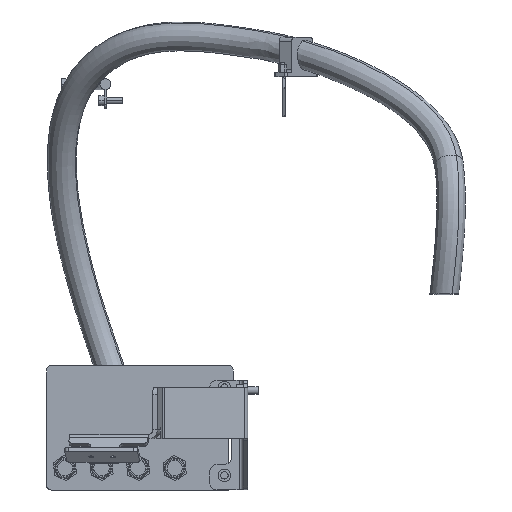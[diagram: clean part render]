
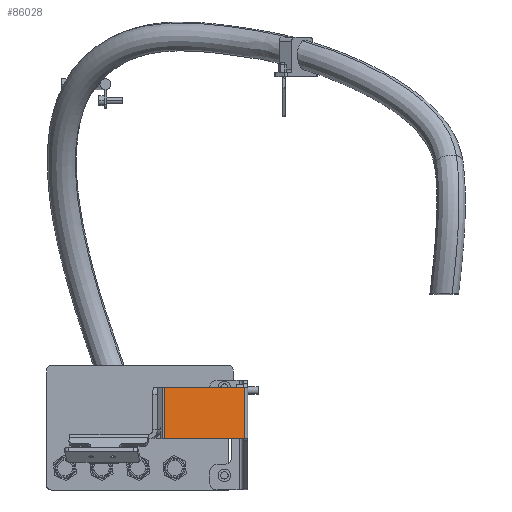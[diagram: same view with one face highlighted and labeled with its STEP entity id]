
A CAD part, left-side view. The second image highlights one B-rep face of the part: STEP entity #86028.
In plain terms, the highlighted planar face has unit normal (-0.766, -0.643, 0).
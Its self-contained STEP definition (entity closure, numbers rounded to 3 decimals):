
#190 = DIRECTION ( 'NONE',  ( 0.643, -0.766, 0. ) ) ;
#559 = EDGE_CURVE ( 'NONE', #59118, #75802, #683, .T. ) ;
#683 = LINE ( 'NONE', #28858, #82409 ) ;
#3476 = CARTESIAN_POINT ( 'NONE',  ( 90.879, 32.442, 1874. ) ) ;
#4618 = CARTESIAN_POINT ( 'NONE',  ( 183.394, -77.813, 1954. ) ) ;
#10465 = CARTESIAN_POINT ( 'NONE',  ( 90.879, 32.442, 1874. ) ) ;
#11299 = EDGE_CURVE ( 'NONE', #34141, #75802, #24495, .T. ) ;
#14583 = ORIENTED_EDGE ( 'NONE', *, *, #22207, .T. ) ;
#17523 = VECTOR ( 'NONE', #87759, 1000. ) ;
#20973 = FACE_OUTER_BOUND ( 'NONE', #63694, .T. ) ;
#22207 = EDGE_CURVE ( 'NONE', #34141, #66009, #49599, .T. ) ;
#24495 = LINE ( 'NONE', #4618, #17523 ) ;
#28858 = CARTESIAN_POINT ( 'NONE',  ( 217.839, -118.863, 1874. ) ) ;
#34141 = VERTEX_POINT ( 'NONE', #40371 ) ;
#40371 = CARTESIAN_POINT ( 'NONE',  ( 183.394, -77.813, 1944. ) ) ;
#40391 = EDGE_CURVE ( 'NONE', #59118, #66009, #81081, .T. ) ;
#43163 = VECTOR ( 'NONE', #67717, 1000. ) ;
#44091 = VECTOR ( 'NONE', #57013, 1000. ) ;
#48238 = PLANE ( 'NONE',  #80354 ) ;
#49599 = LINE ( 'NONE', #57459, #44091 ) ;
#56556 = CARTESIAN_POINT ( 'NONE',  ( 217.839, -118.863, 1954. ) ) ;
#57013 = DIRECTION ( 'NONE',  ( -0.643, 0.766, 0. ) ) ;
#57459 = CARTESIAN_POINT ( 'NONE',  ( 217.839, -118.863, 1944. ) ) ;
#57945 = DIRECTION ( 'NONE',  ( 0.643, -0.766, 0. ) ) ;
#59118 = VERTEX_POINT ( 'NONE', #3476 ) ;
#59544 = CARTESIAN_POINT ( 'NONE',  ( 183.394, -77.813, 1874. ) ) ;
#63694 = EDGE_LOOP ( 'NONE', ( #14583, #77983, #76620, #64463 ) ) ;
#64463 = ORIENTED_EDGE ( 'NONE', *, *, #11299, .F. ) ;
#66009 = VERTEX_POINT ( 'NONE', #76928 ) ;
#67717 = DIRECTION ( 'NONE',  ( 0., 0., 1. ) ) ;
#75802 = VERTEX_POINT ( 'NONE', #59544 ) ;
#76620 = ORIENTED_EDGE ( 'NONE', *, *, #559, .T. ) ;
#76928 = CARTESIAN_POINT ( 'NONE',  ( 90.879, 32.442, 1944. ) ) ;
#77983 = ORIENTED_EDGE ( 'NONE', *, *, #40391, .F. ) ;
#80354 = AXIS2_PLACEMENT_3D ( 'NONE', #56556, #83782, #190 ) ;
#81081 = LINE ( 'NONE', #10465, #43163 ) ;
#82409 = VECTOR ( 'NONE', #57945, 1000. ) ;
#83782 = DIRECTION ( 'NONE',  ( -0.766, -0.643, 0. ) ) ;
#86028 = ADVANCED_FACE ( 'NONE', ( #20973 ), #48238, .T. ) ;
#87759 = DIRECTION ( 'NONE',  ( 0., 0., -1. ) ) ;
